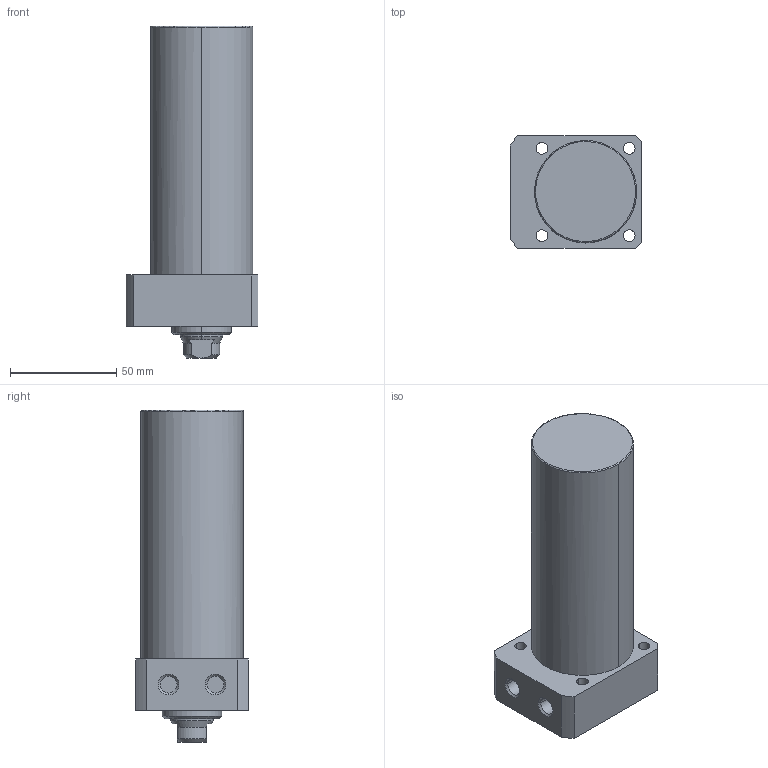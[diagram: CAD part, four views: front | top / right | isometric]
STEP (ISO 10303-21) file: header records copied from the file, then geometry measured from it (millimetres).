
FILE_DESCRIPTION((' '),'2;1');
FILE_NAME( 'TLLR-048CA-090.STEP.stp', '2025-10-24T16:34:30', (' '), ('--- Datakit www.datakit.com---'), ' Datakit CrossCadWare V2024.1 Dec 21 2023', 'Mastercam 2025', ' ');
FILE_SCHEMA(('AUTOMOTIVE_DESIGN { 1 0 10303 214 1 1 1 1 }'));
Length unit declared in the file: millimetre
Products named in the file (1): TLLR-048CA-090
Bounding box: 62 x 53 x 156 mm (x, y, z)
Volume: 290068.3 mm3; surface area: 33006.6 mm2
Topology: 1 solids, 1 shells, 63 faces, 177 edges, 122 vertices
Faces by surface type: cylinder 28, plane 19, cone 14, torus 2
Entity records: 2172 total; most frequent: CARTESIAN_POINT 409, DIRECTION 400, ORIENTED_EDGE 350, EDGE_CURVE 175, AXIS2_PLACEMENT_3D 169, VERTEX_POINT 122, CIRCLE 105, EDGE_LOOP 79
